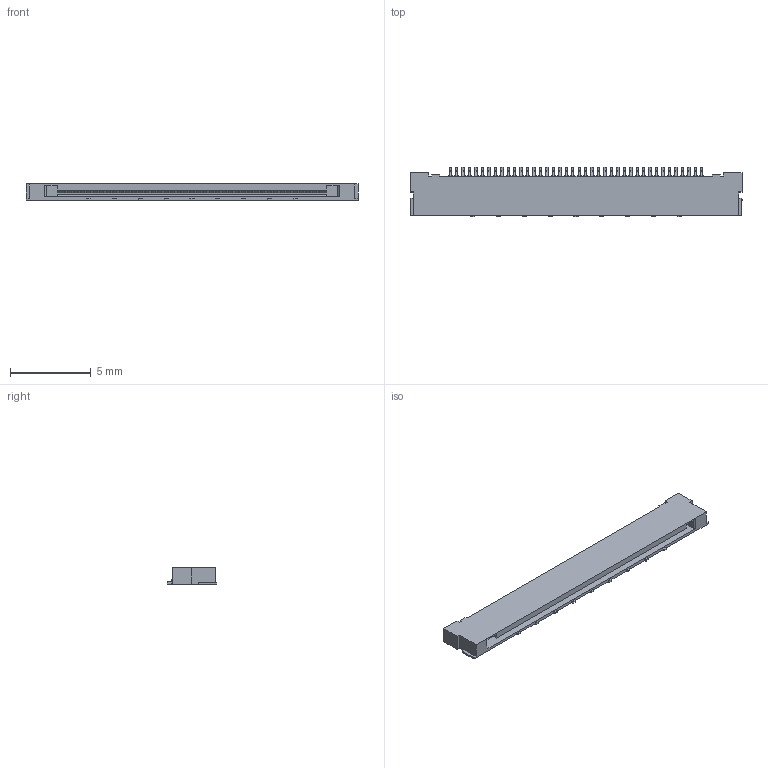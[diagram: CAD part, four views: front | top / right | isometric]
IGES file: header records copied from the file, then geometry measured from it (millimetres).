
Start section: Elysium IGES Interface
Global section: file name: C:\Users\1088\Desktop\P39377_USL00-40L\P39377_USL00-40L.igs; native system: Creo Elements/Direct Modeling 19.0F  14-Feb-2017; preprocessor: Creo Element/Direct IGES_3D V2.2; author: Unknown; organization: Unknown; date: 20171011.144027; units: millimetre
Bounding box: 20.6 x 3.1 x 1 mm (x, y, z)
Volume: 39 mm3; surface area: 248 mm2
Topology: 1 solids, 1 shells, 1021 faces, 3054 edges, 2036 vertices
Faces by surface type: bspline 1021
